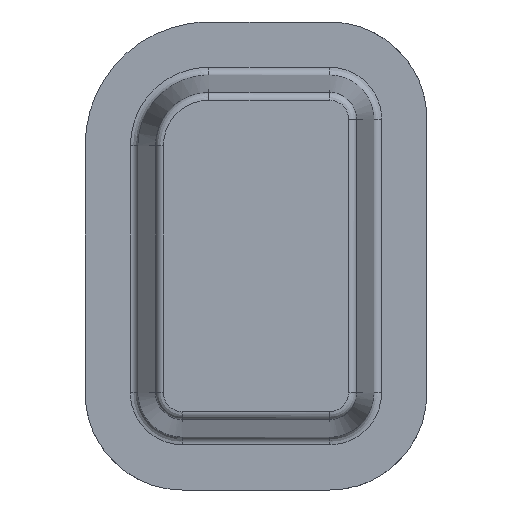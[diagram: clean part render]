
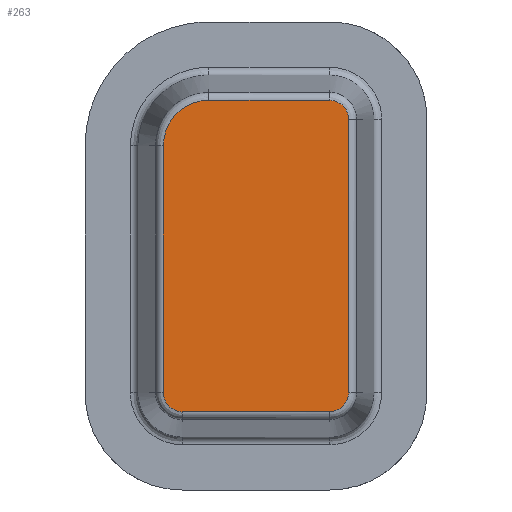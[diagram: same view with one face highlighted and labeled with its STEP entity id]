
A CAD part, front view. The second image highlights one B-rep face of the part: STEP entity #263.
In plain terms, the highlighted planar face has unit normal (0, -1, 0).
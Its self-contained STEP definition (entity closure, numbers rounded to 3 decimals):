
#144=CARTESIAN_POINT('Axis2P3D Location',(39.08,0.,60.92)) ;
#149=CARTESIAN_POINT('Line Origine',(2.749,0.,57.)) ;
#153=CARTESIAN_POINT('Vertex',(2.749,0.,104.)) ;
#155=CARTESIAN_POINT('Vertex',(2.749,0.,10.)) ;
#159=CARTESIAN_POINT('Control Point',(2.749,0.,10.)) ;
#160=CARTESIAN_POINT('Control Point',(2.749,0.,9.039)) ;
#161=CARTESIAN_POINT('Control Point',(2.908,0.,8.077)) ;
#162=CARTESIAN_POINT('Control Point',(3.227,0.,7.153)) ;
#163=CARTESIAN_POINT('Control Point',(4.157,0.,5.444)) ;
#164=CARTESIAN_POINT('Control Point',(5.587,0.,4.125)) ;
#165=CARTESIAN_POINT('Control Point',(6.406,0.,3.591)) ;
#166=CARTESIAN_POINT('Control Point',(7.615,0.,3.065)) ;
#167=CARTESIAN_POINT('Control Point',(8.896,0.,2.821)) ;
#168=CARTESIAN_POINT('Control Point',(9.235,0.,2.777)) ;
#169=CARTESIAN_POINT('Control Point',(9.592,0.,2.752)) ;
#170=CARTESIAN_POINT('Control Point',(9.95,0.,2.749)) ;
#171=CARTESIAN_POINT('Control Point',(9.966,0.,2.749)) ;
#172=CARTESIAN_POINT('Control Point',(9.983,0.,2.749)) ;
#173=CARTESIAN_POINT('Control Point',(10.,0.,2.749)) ;
#174=CARTESIAN_POINT('Vertex',(10.,0.,2.749)) ;
#177=CARTESIAN_POINT('Line Origine',(38.,0.,2.749)) ;
#181=CARTESIAN_POINT('Vertex',(66.,0.,2.749)) ;
#185=CARTESIAN_POINT('Control Point',(66.,0.,2.749)) ;
#186=CARTESIAN_POINT('Control Point',(66.961,0.,2.749)) ;
#187=CARTESIAN_POINT('Control Point',(67.923,0.,2.908)) ;
#188=CARTESIAN_POINT('Control Point',(68.847,0.,3.227)) ;
#189=CARTESIAN_POINT('Control Point',(70.556,0.,4.157)) ;
#190=CARTESIAN_POINT('Control Point',(71.875,0.,5.587)) ;
#191=CARTESIAN_POINT('Control Point',(72.409,0.,6.406)) ;
#192=CARTESIAN_POINT('Control Point',(72.935,0.,7.615)) ;
#193=CARTESIAN_POINT('Control Point',(73.179,0.,8.896)) ;
#194=CARTESIAN_POINT('Control Point',(73.223,0.,9.235)) ;
#195=CARTESIAN_POINT('Control Point',(73.248,0.,9.592)) ;
#196=CARTESIAN_POINT('Control Point',(73.251,0.,9.95)) ;
#197=CARTESIAN_POINT('Control Point',(73.251,0.,9.966)) ;
#198=CARTESIAN_POINT('Control Point',(73.251,0.,9.983)) ;
#199=CARTESIAN_POINT('Control Point',(73.251,0.,10.)) ;
#200=CARTESIAN_POINT('Vertex',(73.251,0.,10.)) ;
#203=CARTESIAN_POINT('Line Origine',(73.251,0.,62.)) ;
#207=CARTESIAN_POINT('Vertex',(73.251,0.,114.)) ;
#211=CARTESIAN_POINT('Control Point',(73.251,0.,114.)) ;
#212=CARTESIAN_POINT('Control Point',(73.251,0.,114.961)) ;
#213=CARTESIAN_POINT('Control Point',(73.092,0.,115.923)) ;
#214=CARTESIAN_POINT('Control Point',(72.773,0.,116.847)) ;
#215=CARTESIAN_POINT('Control Point',(71.843,0.,118.556)) ;
#216=CARTESIAN_POINT('Control Point',(70.413,0.,119.875)) ;
#217=CARTESIAN_POINT('Control Point',(69.594,0.,120.409)) ;
#218=CARTESIAN_POINT('Control Point',(68.385,0.,120.935)) ;
#219=CARTESIAN_POINT('Control Point',(67.104,0.,121.179)) ;
#220=CARTESIAN_POINT('Control Point',(66.765,0.,121.223)) ;
#221=CARTESIAN_POINT('Control Point',(66.408,0.,121.248)) ;
#222=CARTESIAN_POINT('Control Point',(66.05,0.,121.251)) ;
#223=CARTESIAN_POINT('Control Point',(66.034,0.,121.251)) ;
#224=CARTESIAN_POINT('Control Point',(66.017,0.,121.251)) ;
#225=CARTESIAN_POINT('Control Point',(66.,0.,121.251)) ;
#226=CARTESIAN_POINT('Vertex',(66.,0.,121.251)) ;
#229=CARTESIAN_POINT('Line Origine',(43.,0.,121.251)) ;
#233=CARTESIAN_POINT('Vertex',(20.,0.,121.251)) ;
#237=CARTESIAN_POINT('Control Point',(20.,0.,121.251)) ;
#238=CARTESIAN_POINT('Control Point',(18.077,0.,121.251)) ;
#239=CARTESIAN_POINT('Control Point',(16.154,0.,120.983)) ;
#240=CARTESIAN_POINT('Control Point',(14.282,0.,120.447)) ;
#241=CARTESIAN_POINT('Control Point',(10.737,0.,118.869)) ;
#242=CARTESIAN_POINT('Control Point',(7.758,0.,116.383)) ;
#243=CARTESIAN_POINT('Control Point',(6.452,0.,114.939)) ;
#244=CARTESIAN_POINT('Control Point',(4.494,0.,112.046)) ;
#245=CARTESIAN_POINT('Control Point',(3.314,0.,108.769)) ;
#246=CARTESIAN_POINT('Control Point',(2.954,0.,107.26)) ;
#247=CARTESIAN_POINT('Control Point',(2.762,0.,105.686)) ;
#248=CARTESIAN_POINT('Control Point',(2.749,0.,104.11)) ;
#249=CARTESIAN_POINT('Control Point',(2.749,0.,104.073)) ;
#250=CARTESIAN_POINT('Control Point',(2.749,0.,104.037)) ;
#251=CARTESIAN_POINT('Control Point',(2.749,0.,104.)) ;
#145=DIRECTION('Axis2P3D Direction',(0.,-1.,0.)) ;
#146=DIRECTION('Axis2P3D XDirection',(0.058,0.,0.998)) ;
#150=DIRECTION('Vector Direction',(0.,0.,1.)) ;
#178=DIRECTION('Vector Direction',(1.,0.,0.)) ;
#204=DIRECTION('Vector Direction',(0.,0.,1.)) ;
#230=DIRECTION('Vector Direction',(-1.,0.,0.)) ;
#147=AXIS2_PLACEMENT_3D('Plane Axis2P3D',#144,#145,#146) ;
#254=ORIENTED_EDGE('',*,*,#157,.T.) ;
#255=ORIENTED_EDGE('',*,*,#176,.T.) ;
#256=ORIENTED_EDGE('',*,*,#183,.T.) ;
#257=ORIENTED_EDGE('',*,*,#202,.T.) ;
#258=ORIENTED_EDGE('',*,*,#209,.T.) ;
#259=ORIENTED_EDGE('',*,*,#228,.T.) ;
#260=ORIENTED_EDGE('',*,*,#235,.T.) ;
#261=ORIENTED_EDGE('',*,*,#252,.T.) ;
#151=VECTOR('Line Direction',#150,1.) ;
#179=VECTOR('Line Direction',#178,1.) ;
#205=VECTOR('Line Direction',#204,1.) ;
#231=VECTOR('Line Direction',#230,1.) ;
#263=ADVANCED_FACE('base',(#262),#148,.T.) ;
#158=B_SPLINE_CURVE_WITH_KNOTS('',5,(#159,#160,#161,#162,#163,#164,#165,#166,#167,#168,#169,#170,#171,#172,#173),.UNSPECIFIED.,.F.,.U.,(6,3,3,3,6),(30.701,41.142,51.587,55.288,55.47),.UNSPECIFIED.) ;
#184=B_SPLINE_CURVE_WITH_KNOTS('',5,(#185,#186,#187,#188,#189,#190,#191,#192,#193,#194,#195,#196,#197,#198,#199),.UNSPECIFIED.,.F.,.U.,(6,3,3,3,6),(30.701,41.142,51.587,55.288,55.47),.UNSPECIFIED.) ;
#210=B_SPLINE_CURVE_WITH_KNOTS('',5,(#211,#212,#213,#214,#215,#216,#217,#218,#219,#220,#221,#222,#223,#224,#225),.UNSPECIFIED.,.F.,.U.,(6,3,3,3,6),(30.702,41.142,51.587,55.288,55.47),.UNSPECIFIED.) ;
#236=B_SPLINE_CURVE_WITH_KNOTS('',5,(#237,#238,#239,#240,#241,#242,#243,#244,#245,#246,#247,#248,#249,#250,#251),.UNSPECIFIED.,.F.,.U.,(6,3,3,3,6),(42.795,59.175,75.576,88.687,89.),.UNSPECIFIED.) ;
#157=EDGE_CURVE('',#154,#156,#152,.F.) ;
#176=EDGE_CURVE('',#156,#175,#158,.T.) ;
#183=EDGE_CURVE('',#175,#182,#180,.T.) ;
#202=EDGE_CURVE('',#182,#201,#184,.T.) ;
#209=EDGE_CURVE('',#201,#208,#206,.T.) ;
#228=EDGE_CURVE('',#208,#227,#210,.T.) ;
#235=EDGE_CURVE('',#227,#234,#232,.T.) ;
#252=EDGE_CURVE('',#234,#154,#236,.T.) ;
#253=EDGE_LOOP('',(#254,#255,#256,#257,#258,#259,#260,#261)) ;
#262=FACE_OUTER_BOUND('',#253,.T.) ;
#152=LINE('Line',#149,#151) ;
#180=LINE('Line',#177,#179) ;
#206=LINE('Line',#203,#205) ;
#232=LINE('Line',#229,#231) ;
#148=PLANE('',#147) ;
#154=VERTEX_POINT('',#153) ;
#156=VERTEX_POINT('',#155) ;
#175=VERTEX_POINT('',#174) ;
#182=VERTEX_POINT('',#181) ;
#201=VERTEX_POINT('',#200) ;
#208=VERTEX_POINT('',#207) ;
#227=VERTEX_POINT('',#226) ;
#234=VERTEX_POINT('',#233) ;
